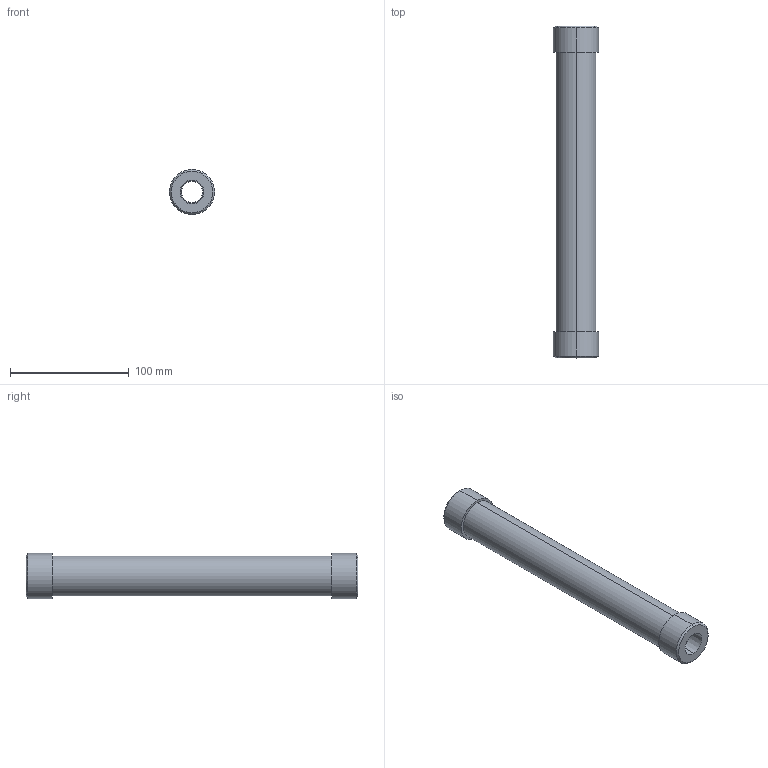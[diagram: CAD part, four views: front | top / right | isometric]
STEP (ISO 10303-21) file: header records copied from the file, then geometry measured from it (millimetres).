
FILE_DESCRIPTION (( 'STEP AP203' ), '1' );
FILE_NAME ('CC0100_P_NPT.STEP', '2016-03-21T09:27:51', ( '' ), ( '' ), 'SwSTEP 2.0', 'SolidWorks 2014', '' );
FILE_SCHEMA (( 'CONFIG_CONTROL_DESIGN' ));
Length unit declared in the file: inch
Products named in the file (2): CC0100_P_NPT
Bounding box: 38.1 x 279.4 x 38.1 mm (x, y, z)
Volume: 116282.9 mm3; surface area: 54626.3 mm2
Topology: 1 solids, 1 shells, 28 faces, 56 edges, 36 vertices
Faces by surface type: cylinder 12, cone 8, plane 8
Entity records: 905 total; most frequent: DIRECTION 152, CARTESIAN_POINT 122, ORIENTED_EDGE 112, AXIS2_PLACEMENT_3D 66, EDGE_CURVE 56, VERTEX_POINT 36, EDGE_LOOP 36, CIRCLE 36
